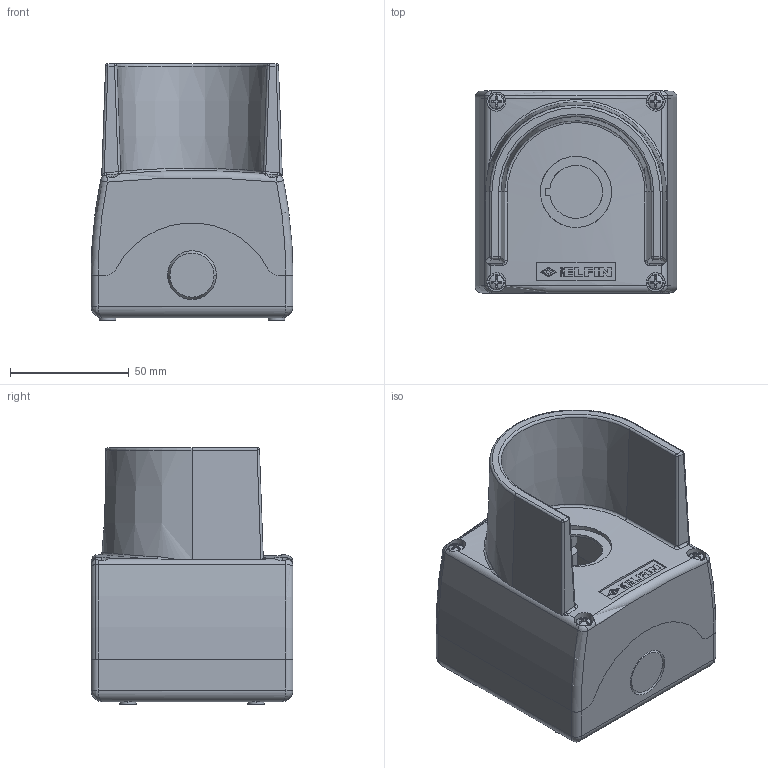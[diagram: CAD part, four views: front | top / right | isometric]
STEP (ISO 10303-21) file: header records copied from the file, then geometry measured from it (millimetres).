
FILE_DESCRIPTION (( 'STEP AP214' ), '1' );
FILE_NAME ('080CA0808-6GP1E.STEP', '2018-04-29T09:22:40', ( '' ), ( '' ), 'SwSTEP 2.0', 'SolidWorks 2013', '' );
FILE_SCHEMA (( 'AUTOMOTIVE_DESIGN' ));
Length unit declared in the file: millimetre
Products named in the file (1): 080CA0808-6GP1E
Bounding box: 85 x 85 x 108 mm (x, y, z)
Volume: 141058 mm3; surface area: 82348.8 mm2
Topology: 17 solids, 17 shells, 557 faces, 1485 edges, 958 vertices
Faces by surface type: plane 283, cylinder 155, cone 66, torus 21, sphere 16, bspline 16
Entity records: 25548 total; most frequent: CARTESIAN_POINT 5415, ORIENTED_EDGE 2954, DIRECTION 2863, EDGE_CURVE 1477, AXIS2_PLACEMENT_3D 1064, VERTEX_POINT 958, VECTOR 735, LINE 735
